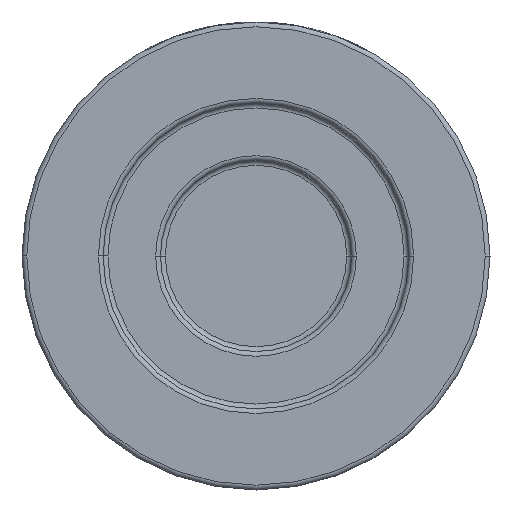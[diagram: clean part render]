
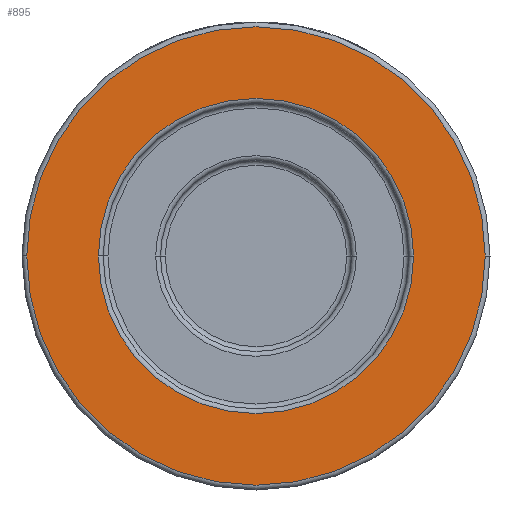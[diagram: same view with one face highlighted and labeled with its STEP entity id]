
A CAD part, front view. The second image highlights one B-rep face of the part: STEP entity #895.
In plain terms, the highlighted planar face has unit normal (0, -1, 0).
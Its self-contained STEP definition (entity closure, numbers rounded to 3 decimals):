
#24 = DIRECTION ( 'NONE',  ( 0., -1., 0. ) ) ;
#292 = CIRCLE ( 'NONE', #3004, 48. ) ;
#295 = AXIS2_PLACEMENT_3D ( 'NONE', #4506, #4526, #1186 ) ;
#434 = EDGE_CURVE ( 'NONE', #1239, #2258, #2295, .T. ) ;
#441 = CARTESIAN_POINT ( 'NONE',  ( 33., -41., 0. ) ) ;
#728 = ORIENTED_EDGE ( 'NONE', *, *, #1404, .T. ) ;
#895 = ADVANCED_FACE ( 'NONE', ( #968, #2446 ), #2837, .T. ) ;
#968 = FACE_BOUND ( 'NONE', #4593, .T. ) ;
#1108 = VERTEX_POINT ( 'NONE', #3098 ) ;
#1186 = DIRECTION ( 'NONE',  ( 1., 0., 0. ) ) ;
#1239 = VERTEX_POINT ( 'NONE', #2857 ) ;
#1404 = EDGE_CURVE ( 'NONE', #1108, #1658, #292, .T. ) ;
#1432 = CARTESIAN_POINT ( 'NONE',  ( 0., -41., 0. ) ) ;
#1459 = DIRECTION ( 'NONE',  ( 0., -1., 0. ) ) ;
#1658 = VERTEX_POINT ( 'NONE', #1949 ) ;
#1857 = CARTESIAN_POINT ( 'NONE',  ( 49., -41., 0. ) ) ;
#1876 = DIRECTION ( 'NONE',  ( 0., 1., 0. ) ) ;
#1913 = DIRECTION ( 'NONE',  ( 1., 0., 0. ) ) ;
#1949 = CARTESIAN_POINT ( 'NONE',  ( 48., -41., 0. ) ) ;
#2123 = ORIENTED_EDGE ( 'NONE', *, *, #2266, .T. ) ;
#2209 = DIRECTION ( 'NONE',  ( 1., 0., 0. ) ) ;
#2258 = VERTEX_POINT ( 'NONE', #441 ) ;
#2266 = EDGE_CURVE ( 'NONE', #1658, #1108, #4698, .T. ) ;
#2274 = EDGE_CURVE ( 'NONE', #2258, #1239, #2378, .T. ) ;
#2275 = CARTESIAN_POINT ( 'NONE',  ( 0., -41., 0. ) ) ;
#2295 = CIRCLE ( 'NONE', #2843, 33. ) ;
#2378 = CIRCLE ( 'NONE', #295, 33. ) ;
#2446 = FACE_OUTER_BOUND ( 'NONE', #2499, .T. ) ;
#2499 = EDGE_LOOP ( 'NONE', ( #2123, #728 ) ) ;
#2837 = PLANE ( 'NONE',  #3479 ) ;
#2843 = AXIS2_PLACEMENT_3D ( 'NONE', #3721, #1876, #2209 ) ;
#2857 = CARTESIAN_POINT ( 'NONE',  ( -33., -41., 0. ) ) ;
#2914 = DIRECTION ( 'NONE',  ( 1., 0., 0. ) ) ;
#3004 = AXIS2_PLACEMENT_3D ( 'NONE', #1432, #1459, #2914 ) ;
#3098 = CARTESIAN_POINT ( 'NONE',  ( -48., -41., 0. ) ) ;
#3232 = AXIS2_PLACEMENT_3D ( 'NONE', #2275, #3755, #1913 ) ;
#3479 = AXIS2_PLACEMENT_3D ( 'NONE', #1857, #24, #3702 ) ;
#3675 = ORIENTED_EDGE ( 'NONE', *, *, #434, .T. ) ;
#3702 = DIRECTION ( 'NONE',  ( 1., 0., 0. ) ) ;
#3721 = CARTESIAN_POINT ( 'NONE',  ( 0., -41., 0. ) ) ;
#3755 = DIRECTION ( 'NONE',  ( 0., -1., 0. ) ) ;
#4215 = ORIENTED_EDGE ( 'NONE', *, *, #2274, .T. ) ;
#4506 = CARTESIAN_POINT ( 'NONE',  ( 0., -41., 0. ) ) ;
#4526 = DIRECTION ( 'NONE',  ( 0., 1., 0. ) ) ;
#4593 = EDGE_LOOP ( 'NONE', ( #4215, #3675 ) ) ;
#4698 = CIRCLE ( 'NONE', #3232, 48. ) ;
